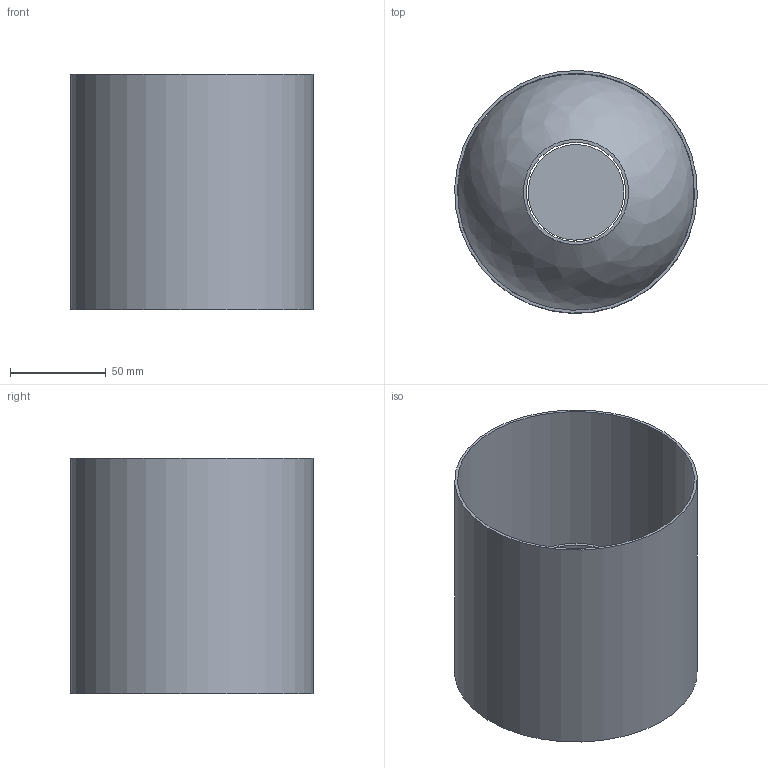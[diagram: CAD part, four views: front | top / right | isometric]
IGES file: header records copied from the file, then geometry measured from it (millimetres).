
Start section: SolidWorks IGES file using analytic representation for surfaces
Global section: file name: X:\PRODUKT\Modele 3D_WWW\_KOLEKCJE WWW\POINT-TONE\POINT-TONE-8220\POINT-TONE-8220.IGS; native system: SolidWorks 2021; preprocessor: SolidWorks 2021; author: gabriela.tworek; date: 220919.125309; units: millimetre
Bounding box: 126.91 x 126.91 x 123 mm (x, y, z)
Surface area: 146486 mm2 (no closed solid volume)
Topology: 0 solids, 0 shells, 15 faces, 39 edges, 30 vertices
Faces by surface type: revolution 9, bspline 6
